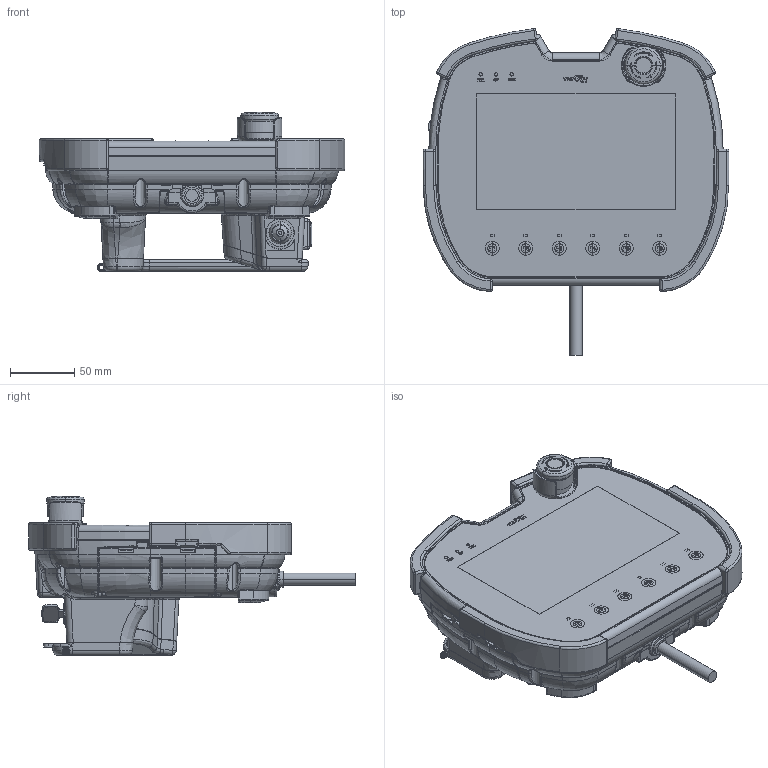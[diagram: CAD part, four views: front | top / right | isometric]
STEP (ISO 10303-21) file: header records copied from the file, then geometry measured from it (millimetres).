
FILE_DESCRIPTION((''),'2;1');
FILE_NAME('3D-TOPRH0700WD','2019-01-08T',('bckim'),(''),'CREO PARAMETRIC BY PTC INC, 2016260','CREO PARAMETRIC BY PTC INC, 2016260','');
FILE_SCHEMA(('CONFIG_CONTROL_DESIGN'));
Products named in the file (1): 3D-TOPRH0700WD
Bounding box: 237.39 x 253.51 x 123.8 mm (x, y, z)
Volume: 2348793.8 mm3; surface area: 212319.3 mm2
Topology: 1 solids, 22 shells, 3590 faces, 9330 edges, 5869 vertices
Faces by surface type: plane 1668, cylinder 831, bspline 410, torus 232, extrusion 194, cone 138, sphere 117
Entity records: 137252 total; most frequent: CARTESIAN_POINT 54318, ORIENTED_EDGE 18588, DIRECTION 15171, EDGE_CURVE 9294, VERTEX_POINT 5869, VECTOR 5091, AXIS2_PLACEMENT_3D 5040, LINE 4897
